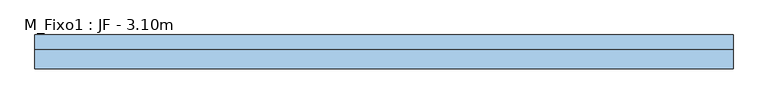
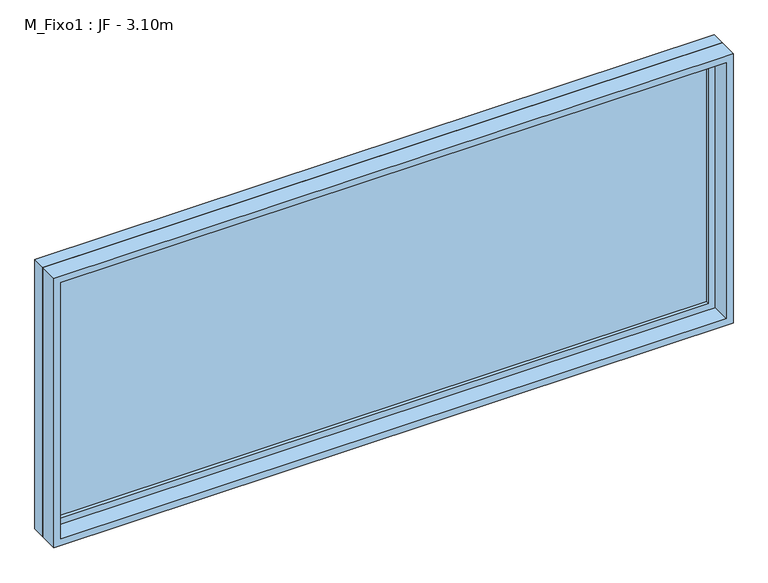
"""IFC4 building model written with IfcOpenShell, lengths in millimetres: window geometry, M_Fixo1 : JF - 3.10m."""

import ifcopenshell
import ifcopenshell.guid

model = None  # the IFC model being written
_history = None  # IfcOwnerHistory: only IFC2X3 demands one
_inside = {}  # id of a spatial element -> (the spatial element, [elements in it])
_under = {}  # id of a project, library or spatial element -> (it, [spatial elements below it])
_declared = {}  # id of a project -> (the project, [libraries it declares])
_typed = {}  # id of a type object -> (the type object, [elements of that type])
_made_of = {}  # id of a material, layer set ... -> (it, [elements and type objects made of it])


def new_model(schema):
    """Start an empty IFC model of exactly this schema.

    Asked for "IFC4X3", IfcOpenShell would pick the latest addendum, in which some entities
    have other attributes; the version numbers below select the first issue.
    IFC2X3 requires an IfcOwnerHistory on every rooted entity: one is made here for all.
    """
    global model, _history
    if schema == "IFC4X3":
        model = ifcopenshell.file(schema_version=(4, 3, 0, 0))
    else:
        model = ifcopenshell.file(schema=schema)
    _inside.clear()
    _under.clear()
    _declared.clear()
    _typed.clear()
    _made_of.clear()
    _history = None
    if model.schema == "IFC2X3":
        org = make("IfcOrganization", Name="unknown")
        user = make(
            "IfcPersonAndOrganization",
            ThePerson=make("IfcPerson", FamilyName="unknown"),
            TheOrganization=org,
        )
        app = make(
            "IfcApplication",
            ApplicationDeveloper=org,
            Version="unknown",
            ApplicationFullName="unknown",
            ApplicationIdentifier="unknown",
        )
        _history = make(
            "IfcOwnerHistory",
            OwningUser=user,
            OwningApplication=app,
            ChangeAction="ADDED",
            CreationDate=0,
        )
    return model


def make(cls, **values):
    """One entity of the class cls with the attributes given. An attribute that is None is left unset."""
    return model.create_entity(
        cls, **{name: value for name, value in values.items() if value is not None}
    )


def rooted(cls, **values):
    """An entity with a GlobalId (a new one), such as an element, a storey or a relation."""
    return make(cls, GlobalId=ifcopenshell.guid.new(), OwnerHistory=_history, **values)


def si_unit(unit_type, name, prefix=None):
    """IfcSIUnit, for example si_unit("LENGTHUNIT", "METRE", prefix="MILLI")."""
    return make("IfcSIUnit", UnitType=unit_type, Prefix=prefix, Name=name)


def assignment(units):
    """IfcUnitAssignment: the units of a project."""
    return None if units is None else make("IfcUnitAssignment", Units=units)


def point(xyz):
    """IfcCartesianPoint."""
    return None if xyz is None else make("IfcCartesianPoint", Coordinates=xyz)


def direction(xyz):
    """IfcDirection."""
    return None if xyz is None else make("IfcDirection", DirectionRatios=xyz)


def frame(location, z_axis=None, x_axis=None):
    """IfcAxis2Placement3D, a coordinate frame: its origin and axes. An axis left out is left unset."""
    return make(
        "IfcAxis2Placement3D",
        Location=point(location),
        Axis=direction(z_axis),
        RefDirection=direction(x_axis),
    )


def origin():
    """The frame at (0, 0, 0) with its axes left unset."""
    return frame((0.0, 0.0, 0.0))


def place(relative_to, where):
    """IfcLocalPlacement: puts the frame where relative to a parent placement (None: the world)."""
    return make(
        "IfcLocalPlacement", PlacementRelTo=relative_to, RelativePlacement=where
    )


def context(
    kind, dimensions, precision=None, world=None, true_north=None, identifier=None
):
    """IfcGeometricRepresentationContext, for example the 3D "Model" context."""
    return make(
        "IfcGeometricRepresentationContext",
        ContextIdentifier=identifier,
        ContextType=kind,
        CoordinateSpaceDimension=dimensions,
        Precision=precision,
        WorldCoordinateSystem=world,
        TrueNorth=true_north,
    )


def project(units=None, contexts=None):
    """IfcProject with its units and contexts."""
    return rooted(
        "IfcProject",
        Name="project",
        RepresentationContexts=contexts,
        UnitsInContext=assignment(units),
    )


def spatial(cls, under=None, at=None, **own):
    """A site, building, storey or space (cls), placed at a placement, below another one or the project."""
    s = rooted(cls, ObjectPlacement=at, **own)
    if under is not None:
        _under.setdefault(under.id(), (under, []))[1].append(s)
    return s


def polyline(points):
    """IfcPolyline through the points."""
    return make("IfcPolyline", Points=[point(p) for p in points])


def outline(outer, holes=None, kind="AREA"):
    """IfcArbitraryClosedProfileDef: a profile drawn as a closed curve; with holes, ...WithVoids."""
    if holes is None:
        return make("IfcArbitraryClosedProfileDef", ProfileType=kind, OuterCurve=outer)
    return make(
        "IfcArbitraryProfileDefWithVoids",
        ProfileType=kind,
        OuterCurve=outer,
        InnerCurves=holes,
    )


def extrude(swept, where, along, depth):
    """IfcExtrudedAreaSolid: the profile swept, set in the frame where, extruded along a direction by depth."""
    return make(
        "IfcExtrudedAreaSolid",
        SweptArea=swept,
        Position=where,
        ExtrudedDirection=direction(along),
        Depth=depth,
    )


def shape(context_of_items, identifier, shape_type, items):
    """IfcShapeRepresentation: the items that make up one representation, for example the "Body"."""
    return make(
        "IfcShapeRepresentation",
        ContextOfItems=context_of_items,
        RepresentationIdentifier=identifier,
        RepresentationType=shape_type,
        Items=items,
    )


def source(mapping_origin, context_of_items, identifier, shape_type, items):
    """IfcRepresentationMap: a shape defined once, which mapped items show again and again."""
    return make(
        "IfcRepresentationMap",
        MappingOrigin=mapping_origin,
        MappedRepresentation=shape(context_of_items, identifier, shape_type, items),
    )


def transform(
    local_origin,
    x_axis=None,
    y_axis=None,
    z_axis=None,
    scale=None,
    scale2=None,
    scale3=None,
    uniform=True,
):
    """IfcCartesianTransformationOperator3D, or its non-uniform kind. x_axis, y_axis, z_axis: its Axis1, 2, 3."""
    if uniform:
        return make(
            "IfcCartesianTransformationOperator3D",
            Axis1=direction(x_axis),
            Axis2=direction(y_axis),
            LocalOrigin=point(local_origin),
            Scale=scale,
            Axis3=direction(z_axis),
        )
    return make(
        "IfcCartesianTransformationOperator3DnonUniform",
        Axis1=direction(x_axis),
        Axis2=direction(y_axis),
        LocalOrigin=point(local_origin),
        Scale=scale,
        Axis3=direction(z_axis),
        Scale2=scale2,
        Scale3=scale3,
    )


def mapped(mapping_source, mapping_target):
    """IfcMappedItem: shows the shape of a source again, moved by a transform."""
    return make(
        "IfcMappedItem", MappingSource=mapping_source, MappingTarget=mapping_target
    )


def made_of(thing, what):
    """Note that an element or type object is made of a material, layer set ...; save() writes the relation."""
    if what is not None:
        _made_of.setdefault(what.id(), (what, []))[1].append(thing)
    return thing


def element(
    cls,
    number,
    at=None,
    inside=None,
    cuts=None,
    type_object=None,
    material=None,
    context=None,
    identifier="Body",
    shape_type=None,
    held_by="IfcProductDefinitionShape",
    body=None,
    shapes=None,
    **own,
):
    """One element of the class cls, such as IfcWall. Its Tag is "e" and its number.

    at: its placement. inside: the storey or other place that contains it. cuts: it is an
    opening in that element (IfcRelVoidsElement). A single representation is given by context,
    identifier, shape_type and body (its items); several are given by shapes. held_by: the class
    of the entity that holds the representations. save() writes the other relations.
    """
    e = rooted(cls, Tag="e%d" % number, ObjectPlacement=at, **own)
    if body is not None:
        shapes = [shape(context, identifier, shape_type, body)]
    if shapes is not None:
        e.Representation = make(held_by, Representations=shapes)
    if inside is not None:
        _inside.setdefault(inside.id(), (inside, []))[1].append(e)
    if cuts is not None:
        rooted(
            "IfcRelVoidsElement", RelatingBuildingElement=cuts, RelatedOpeningElement=e
        )
    if type_object is not None:
        _typed.setdefault(type_object.id(), (type_object, []))[1].append(e)
    return made_of(e, material)


def aggregate(whole, parts):
    """IfcRelAggregates: a whole, such as a stair, and the parts it consists of."""
    return rooted("IfcRelAggregates", RelatingObject=whole, RelatedObjects=parts)


def save(model, path):
    """Write the relations noted so far, then the file.

    IfcRelAggregates (storeys below a building ...), IfcRelContainedInSpatialStructure (elements
    in a storey), IfcRelDefinesByType, IfcRelAssociatesMaterial and IfcRelDeclares: one each for
    every whole, place, type object, material and project.
    """
    for whole, parts in _under.values():
        aggregate(whole, parts)
    for where, things in _inside.values():
        rooted(
            "IfcRelContainedInSpatialStructure",
            RelatedElements=things,
            RelatingStructure=where,
        )
    for kind, things in _typed.values():
        rooted("IfcRelDefinesByType", RelatedObjects=things, RelatingType=kind)
    for what, things in _made_of.values():
        rooted("IfcRelAssociatesMaterial", RelatedObjects=things, RelatingMaterial=what)
    for by, libraries in _declared.values():
        rooted("IfcRelDeclares", RelatingContext=by, RelatedDefinitions=libraries)
    model.write(path)


def m_fixo1_jf_3_10m_b823a977(model_context):
    return source(origin(), model_context, "Body", "SweptSolid", [
        extrude(outline(polyline([(-1487.0, 53.0), (1487.0, 53.0), (1487.0, 41.0), (-1487.0, 41.0), (-1487.0, 53.0)])), frame((0.0, 0.0, 978.0), z_axis=(0.0, 0.0, 1.0), x_axis=(1.0, 0.0, 0.0)), (0.0, 0.0, 1.0), 1174.0),
        extrude(outline(polyline([(2196.0, -1531.0), (934.0, -1531.0), (934.0, 1531.0), (2196.0, 1531.0), (2196.0, -1531.0)]), holes=[polyline([(2152.0, -1487.0), (2152.0, 1487.0), (978.0, 1487.0), (978.0, -1487.0), (2152.0, -1487.0)])]), frame((0.0, 25.0, 0.0), z_axis=(0.0, 1.0, 0.0), x_axis=(0.0, 0.0, 1.0)), (0.0, 0.0, 1.0), 44.0),
        extrude(outline(polyline([(2215.0, -1550.0), (915.0, -1550.0), (915.0, 1550.0), (2215.0, 1550.0), (2215.0, -1550.0)]), holes=[polyline([(2196.0, -1531.0), (2196.0, 1531.0), (934.0, 1531.0), (934.0, -1531.0), (2196.0, -1531.0)])]), frame((0.0, 25.0, 0.0), z_axis=(0.0, 1.0, 0.0), x_axis=(0.0, 0.0, 1.0)), (0.0, 0.0, 1.0), 63.0),
        extrude(outline(polyline([(2215.0, -1550.0), (915.0, -1550.0), (915.0, 1550.0), (2215.0, 1550.0), (2215.0, -1550.0)]), holes=[polyline([(2183.0, -1518.0), (2183.0, 1518.0), (947.0, 1518.0), (947.0, -1518.0), (2183.0, -1518.0)])]), frame((0.0, -62.0, 0.0), z_axis=(0.0, 1.0, 0.0), x_axis=(0.0, 0.0, 1.0)), (0.0, 0.0, 1.0), 87.0),
    ])


if __name__ == "__main__":
    model = new_model("IFC4")
    model_context = context("Model", 3, world=origin())
    ifc_project = project(units=[si_unit("LENGTHUNIT", "METRE", prefix="MILLI")], contexts=[model_context])
    site = spatial("IfcSite", under=ifc_project)
    building = spatial("IfcBuilding", under=site)
    placement = place(None, origin())
    m_fixo1_jf_3_10m_shape = m_fixo1_jf_3_10m_b823a977(model_context)
    element("IfcWindow", 1, ObjectType="M_Fixo1 : JF - 3.10m", at=placement, inside=building, context=model_context, shape_type="MappedRepresentation", body=[
        mapped(m_fixo1_jf_3_10m_shape, transform((0.0, 0.0, 0.0), x_axis=(1.0, 0.0, 0.0), y_axis=(0.0, 1.0, 0.0), z_axis=(0.0, 0.0, 1.0))),
    ])
    save(model, "model.ifc")
